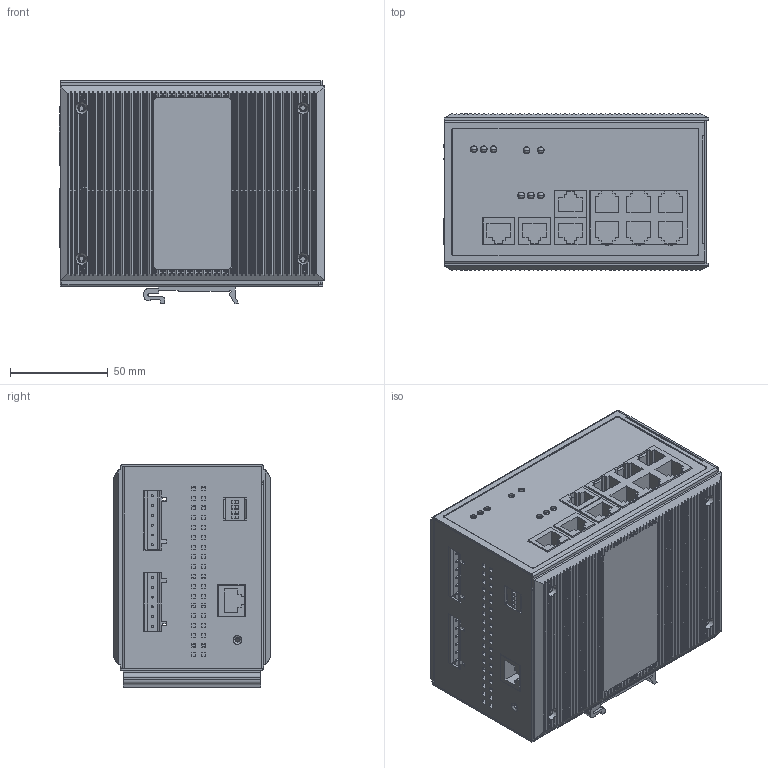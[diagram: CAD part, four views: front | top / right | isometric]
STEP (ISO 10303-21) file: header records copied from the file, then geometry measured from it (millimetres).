
FILE_DESCRIPTION((''),'2;1');
FILE_NAME('EDS-510A-3GT','2010-08-19T',('Chialu_Chang'),(''),'PRO/ENGINEER BY PARAMETRIC TECHNOLOGY CORPORATION, 2004440','PRO/ENGINEER BY PARAMETRIC TECHNOLOGY CORPORATION, 2004440','');
FILE_SCHEMA(('CONFIG_CONTROL_DESIGN'));
Products named in the file (1): EDS-510A-3GT
Bounding box: 135.3 x 80.18 x 114 mm (x, y, z)
Volume: 50971.9 mm3; surface area: 258796.1 mm2
Topology: 13 solids, 146 shells, 5843 faces, 14715 edges, 9337 vertices
Faces by surface type: plane 4817, cylinder 754, cone 188, torus 64, bspline 20
Entity records: 173686 total; most frequent: CARTESIAN_POINT 33269, ORIENTED_EDGE 29322, DIRECTION 26990, EDGE_CURVE 14699, VECTOR 12354, LINE 12354, VERTEX_POINT 9337, AXIS2_PLACEMENT_3D 7318
